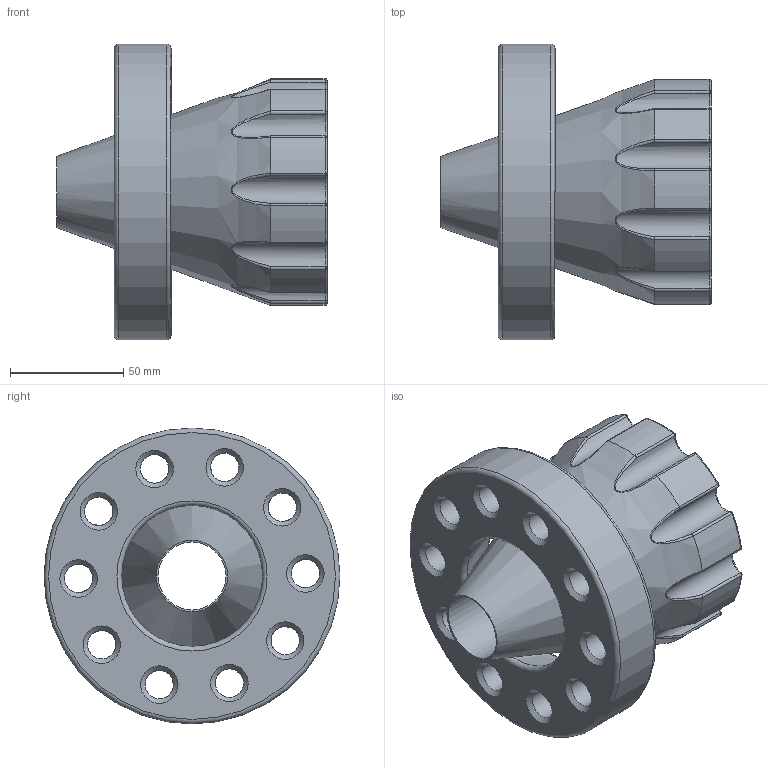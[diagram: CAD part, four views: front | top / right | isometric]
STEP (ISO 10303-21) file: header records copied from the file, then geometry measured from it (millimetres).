
FILE_DESCRIPTION( ( '' ), ' ' );
FILE_NAME( '/vol/tmp/translate-4952695944383253838/5ae2df997e06230fac0630eb.step', '2018-04-27T08:30:18', ( '' ), ( '' ), ' ', ' ', ' ' );
FILE_SCHEMA( ( 'AUTOMOTIVE_DESIGN { 1 0 10303 214 1 1 1 1 }' ) );
Length unit declared in the file: metre
Products named in the file (2): Part 2; Part 1
Bounding box: 119.28 x 130.49 x 130.49 mm (x, y, z)
Volume: 577742.2 mm3; surface area: 91377.3 mm2
Topology: 2 solids, 2 shells, 138 faces, 339 edges, 196 vertices
Faces by surface type: cylinder 53, torus 25, cone 23, sphere 20, bspline 10, plane 7
Full cylindrical faces by diameter (mm): 12.516 x10, 30 x1, 56.847 x1, 130.487 x1
Entity records: 13492 total; most frequent: CARTESIAN_POINT 9424, DIRECTION 644, ORIENTED_EDGE 548, AXIS2_PLACEMENT_3D 300, EDGE_CURVE 274, EDGE_LOOP 202, VERTEX_POINT 180, CIRCLE 170
